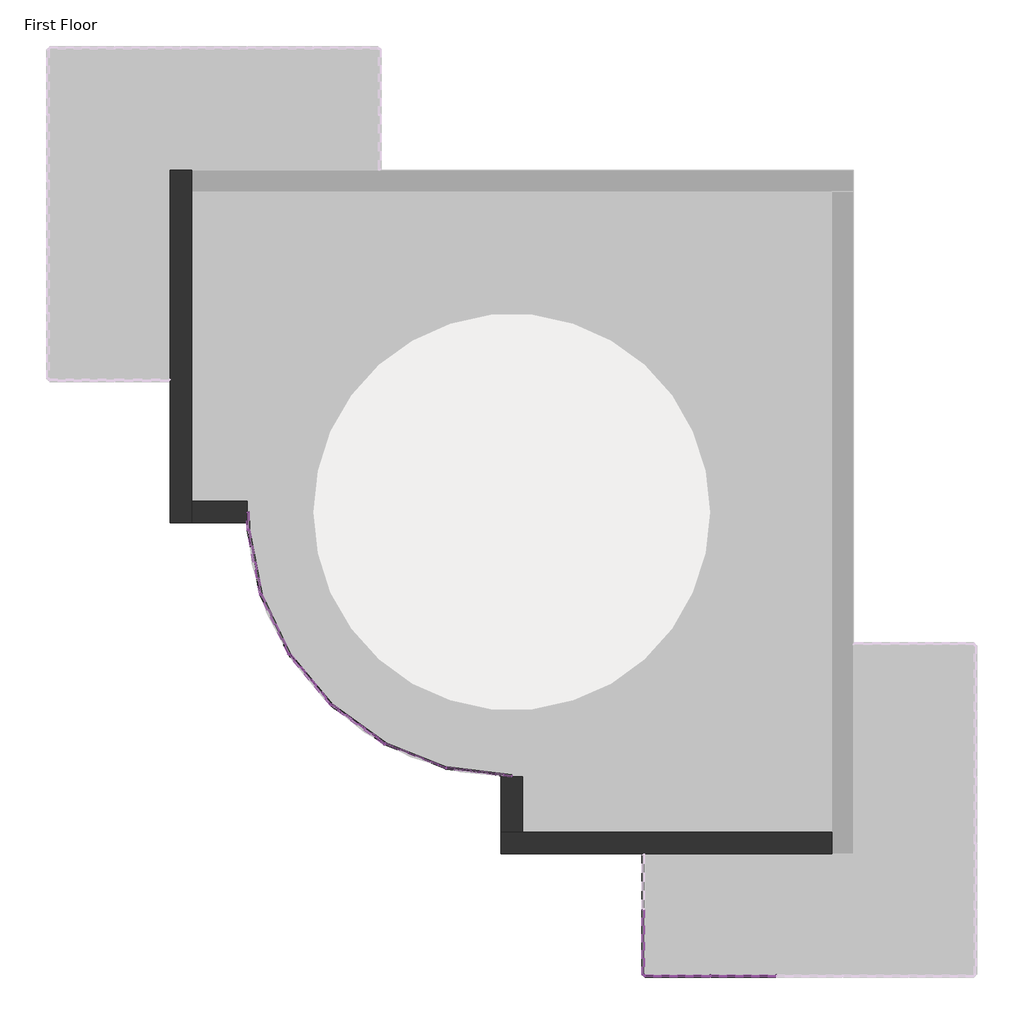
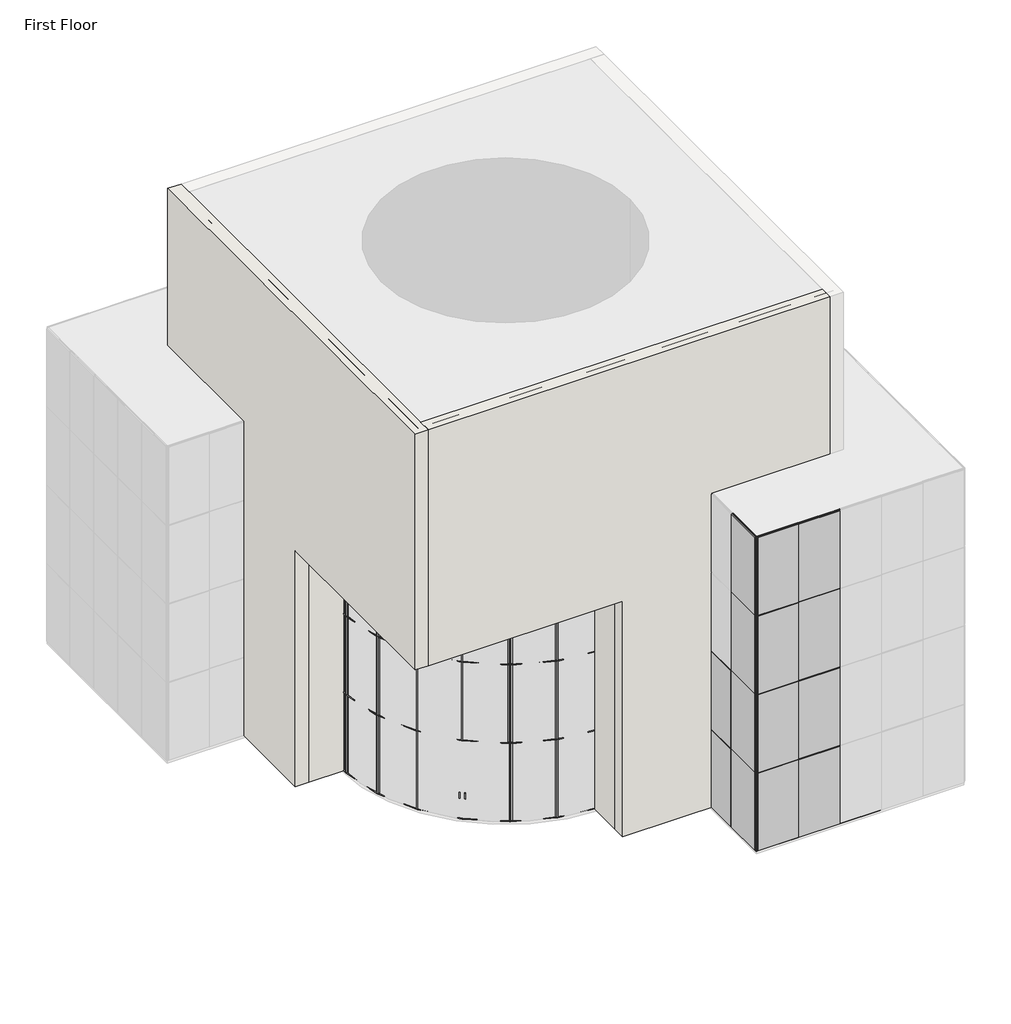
# One storey, part 1 of 4: 73 members, 35 plates, 4 walls.
"""IFC4 building model written with IfcOpenShell, lengths in millimetres."""

from ifc_helpers import new_model, si_unit, origin, origin_with_axes, place, context, project, spatial, polyline, outline, extrude, faceted_brep, transform, mapped, element, save
from components import member_5e617a80, member_74941792, member_cbdb9076, member_7e523723, member_9fd3d903, member_6604d1e0, member_427ea564, member_dc7d8ed0, member_50c0a876, member_f831c101, member_4ce38149, member_fef64646, member_b90b2622, member_80103e86, member_985bfe06, member_dfe62b7a, member_7f371842, curtain_wall_sgl_glass_curtain_wall_sgl_glass_fca7f741, curtain_wall_sgl_glass_curtain_wall_sgl_glass_da5bb70a, system_panel_glazed_9b7d687a, system_panel_glazed_9a901b4a, system_panel_glazed_2d5e1d3d, system_panel_glazed_37964ea6, system_panel_glazed_a669fc9f, system_panel_glazed_51c864c8, system_panel_glazed_64ac1428, system_panel_glazed_4997d7a8, system_panel_glazed_95735f45, system_panel_glazed_2762a518, system_panel_glazed_280dc3c4, system_panel_glazed_176abec3, system_panel_glazed_46fdc408

model = new_model("IFC4")

# Units and contexts
model_context = context("Model", 3, world=origin())
ifc_project = project(units=[si_unit("LENGTHUNIT", "METRE", prefix="MILLI")], contexts=[model_context])

# Site, building, storey
site = spatial("IfcSite", under=ifc_project)
building = spatial("IfcBuilding", under=site)
storey = spatial("IfcBuildingStorey", under=building, Name="First Floor", Elevation=0.0)

# Members
placement = place(None, origin())
member_shape = member_5e617a80(model_context)
element("IfcMember", 1, ObjectType="Rectangular Mullion : 1\" Square", at=placement, inside=storey, context=model_context, shape_type="MappedRepresentation", body=[
    mapped(member_shape, transform((2088.1943843, -11353.9860776, 3048.0), x_axis=(0.0, 0.0, 1.0), y_axis=(0.0, -1.0, 0.0), z_axis=(1.0, 0.0, 0.0))),
])
element("IfcMember", 2, ObjectType="Rectangular Mullion : 1\" Square", at=placement, inside=storey, context=model_context, shape_type="MappedRepresentation", body=[
    mapped(member_shape, transform((2088.1943843, -11353.9860776, 6096.0), x_axis=(0.0, 0.0, 1.0), y_axis=(0.0, -1.0, 0.0), z_axis=(1.0, 0.0, 0.0))),
])
element("IfcMember", 3, ObjectType="Rectangular Mullion : 1\" Square", at=placement, inside=storey, context=model_context, shape_type="MappedRepresentation", body=[
    mapped(member_shape, transform((2088.1943843, -11353.9860776, 9144.0), x_axis=(0.0, 0.0, 1.0), y_axis=(0.0, -1.0, 0.0), z_axis=(1.0, 0.0, 0.0))),
])
member_2_shape = member_74941792(model_context)
element("IfcMember", 4, ObjectType="Rectangular Mullion : 1\" Square", at=placement, inside=storey, context=model_context, shape_type="MappedRepresentation", body=[
    mapped(member_2_shape, transform((2088.1943843, -11353.9860776, 12192.0), x_axis=(0.0, 0.0, 1.0), y_axis=(0.0, -1.0, 0.0), z_axis=(1.0, 0.0, 0.0))),
])
member_3_shape = member_cbdb9076(model_context)
element("IfcMember", 5, ObjectType="Rectangular Mullion : 1\" Square", at=placement, inside=storey, context=model_context, shape_type="MappedRepresentation", body=[
    mapped(member_3_shape, transform((576.8943843, -11350.8110776, 3048.0), x_axis=(0.0, -1.0, 0.0), y_axis=(-1.0, 0.0, 0.0), z_axis=(0.0, 0.0, -1.0))),
])
element("IfcMember", 6, ObjectType="Rectangular Mullion : 1\" Square", at=placement, inside=storey, context=model_context, shape_type="MappedRepresentation", body=[
    mapped(member_3_shape, transform((576.8943843, -11350.8110776, 6096.0), x_axis=(0.0, -1.0, 0.0), y_axis=(-1.0, 0.0, 0.0), z_axis=(0.0, 0.0, -1.0))),
])
element("IfcMember", 7, ObjectType="Rectangular Mullion : 1\" Square", at=placement, inside=storey, context=model_context, shape_type="MappedRepresentation", body=[
    mapped(member_3_shape, transform((2100.8943843, -11353.9860776, 3048.0), x_axis=(1.0, 0.0, 0.0), y_axis=(0.0, -1.0, 0.0), z_axis=(0.0, 0.0, -1.0))),
])
element("IfcMember", 8, ObjectType="Rectangular Mullion : 1\" Square", at=placement, inside=storey, context=model_context, shape_type="MappedRepresentation", body=[
    mapped(member_3_shape, transform((2100.8943843, -11353.9860776, 6096.0), x_axis=(1.0, 0.0, 0.0), y_axis=(0.0, -1.0, 0.0), z_axis=(0.0, 0.0, -1.0))),
])
element("IfcMember", 9, ObjectType="Rectangular Mullion : 1\" Square", at=placement, inside=storey, context=model_context, shape_type="MappedRepresentation", body=[
    mapped(member_3_shape, transform((3624.8943843, -11353.9860776, 3048.0), x_axis=(1.0, 0.0, 0.0), y_axis=(0.0, -1.0, 0.0), z_axis=(0.0, 0.0, -1.0))),
])
element("IfcMember", 10, ObjectType="Rectangular Mullion : 1\" Square", at=placement, inside=storey, context=model_context, shape_type="MappedRepresentation", body=[
    mapped(member_3_shape, transform((3624.8943843, -11353.9860776, 6096.0), x_axis=(1.0, 0.0, 0.0), y_axis=(0.0, -1.0, 0.0), z_axis=(0.0, 0.0, -1.0))),
])
element("IfcMember", 11, ObjectType="Rectangular Mullion : 1\" Square", at=placement, inside=storey, context=model_context, shape_type="MappedRepresentation", body=[
    mapped(member_3_shape, transform((-8553.4843812, -1093.2753523, 3048.0), x_axis=(-0.06681254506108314, 0.9977655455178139, 0.0), y_axis=(0.9977655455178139, 0.06681254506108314, 0.0), z_axis=(0.0, 0.0, -1.0))),
])
element("IfcMember", 12, ObjectType="Rectangular Mullion : 1\" Square", at=placement, inside=storey, context=model_context, shape_type="MappedRepresentation", body=[
    mapped(member_3_shape, transform((-8262.3863448, -2589.2158368, 3048.0), x_axis=(-0.3122096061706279, 0.9500132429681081, 0.0), y_axis=(0.9500132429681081, 0.3122096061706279, 0.0), z_axis=(0.0, 0.0, -1.0))),
])
element("IfcMember", 13, ObjectType="Rectangular Mullion : 1\" Square", at=placement, inside=storey, context=model_context, shape_type="MappedRepresentation", body=[
    mapped(member_3_shape, transform((-7609.3332629, -3966.2044614, 3048.0), x_axis=(-0.5380935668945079, 0.8428851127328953, 0.0), y_axis=(0.8428851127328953, 0.5380935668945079, 0.0), z_axis=(0.0, 0.0, -1.0))),
])
element("IfcMember", 14, ObjectType="Rectangular Mullion : 1\" Square", at=placement, inside=storey, context=model_context, shape_type="MappedRepresentation", body=[
    mapped(member_3_shape, transform((-5400.6964346, -6031.8923276, 3048.0), x_axis=(-0.876953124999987, 0.4805759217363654, 0.0), y_axis=(0.4805759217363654, 0.876953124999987, 0.0), z_axis=(0.0, 0.0, -1.0))),
])
element("IfcMember", 15, ObjectType="Rectangular Mullion : 1\" Square", at=placement, inside=storey, context=model_context, shape_type="MappedRepresentation", body=[
    mapped(member_3_shape, transform((-3983.15249, -6591.4860776, 3048.0), x_axis=(-0.9687499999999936, 0.2480391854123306, 0.0), y_axis=(0.2480391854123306, 0.9687499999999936, 0.0), z_axis=(0.0, 0.0, -1.0))),
])
element("IfcMember", 16, ObjectType="Rectangular Mullion : 1\" Square", at=placement, inside=storey, context=model_context, shape_type="MappedRepresentation", body=[
    mapped(member_3_shape, transform((576.8943843, -11350.8110776, 9144.0), x_axis=(0.0, -1.0, 0.0), y_axis=(-1.0, 0.0, 0.0), z_axis=(0.0, 0.0, -1.0))),
])
element("IfcMember", 17, ObjectType="Rectangular Mullion : 1\" Square", at=placement, inside=storey, context=model_context, shape_type="MappedRepresentation", body=[
    mapped(member_3_shape, transform((2100.8943843, -11353.9860776, 9144.0), x_axis=(1.0, 0.0, 0.0), y_axis=(0.0, -1.0, 0.0), z_axis=(0.0, 0.0, -1.0))),
])
element("IfcMember", 18, ObjectType="Rectangular Mullion : 1\" Square", at=placement, inside=storey, context=model_context, shape_type="MappedRepresentation", body=[
    mapped(member_3_shape, transform((3624.8943843, -11353.9860776, 9144.0), x_axis=(1.0, 0.0, 0.0), y_axis=(0.0, -1.0, 0.0), z_axis=(0.0, 0.0, -1.0))),
])
element("IfcMember", 19, ObjectType="Rectangular Mullion : 1\" Square", at=placement, inside=storey, context=model_context, shape_type="MappedRepresentation", body=[
    mapped(member_3_shape, transform((576.8943843, -11350.8110776, 0.0), x_axis=(0.0, -1.0, 0.0), y_axis=(-1.0, 0.0, 0.0), z_axis=(0.0, 0.0, -1.0))),
])
element("IfcMember", 20, ObjectType="Rectangular Mullion : 1\" Square", at=placement, inside=storey, context=model_context, shape_type="MappedRepresentation", body=[
    mapped(member_3_shape, transform((2100.8943843, -11353.9860776, 0.0), x_axis=(1.0, 0.0, 0.0), y_axis=(0.0, -1.0, 0.0), z_axis=(0.0, 0.0, -1.0))),
])
element("IfcMember", 21, ObjectType="Rectangular Mullion : 1\" Square", at=placement, inside=storey, context=model_context, shape_type="MappedRepresentation", body=[
    mapped(member_3_shape, transform((3624.8943843, -11353.9860776, 0.0), x_axis=(1.0, 0.0, 0.0), y_axis=(0.0, -1.0, 0.0), z_axis=(0.0, 0.0, -1.0))),
])
element("IfcMember", 22, ObjectType="Rectangular Mullion : 1\" Square", at=placement, inside=storey, context=model_context, shape_type="MappedRepresentation", body=[
    mapped(member_3_shape, transform((-8553.4843812, -1093.2753523, 0.0), x_axis=(-0.06681254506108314, 0.9977655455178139, 0.0), y_axis=(0.9977655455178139, 0.06681254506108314, 0.0), z_axis=(0.0, 0.0, -1.0))),
])
element("IfcMember", 23, ObjectType="Rectangular Mullion : 1\" Square", at=placement, inside=storey, context=model_context, shape_type="MappedRepresentation", body=[
    mapped(member_3_shape, transform((-8262.3863448, -2589.2158368, 0.0), x_axis=(-0.3122096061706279, 0.9500132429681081, 0.0), y_axis=(0.9500132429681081, 0.3122096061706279, 0.0), z_axis=(0.0, 0.0, -1.0))),
])
element("IfcMember", 24, ObjectType="Rectangular Mullion : 1\" Square", at=placement, inside=storey, context=model_context, shape_type="MappedRepresentation", body=[
    mapped(member_3_shape, transform((-7609.3332629, -3966.2044614, 0.0), x_axis=(-0.5380935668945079, 0.8428851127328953, 0.0), y_axis=(0.8428851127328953, 0.5380935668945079, 0.0), z_axis=(0.0, 0.0, -1.0))),
])
element("IfcMember", 25, ObjectType="Rectangular Mullion : 1\" Square", at=placement, inside=storey, context=model_context, shape_type="MappedRepresentation", body=[
    mapped(member_3_shape, transform((-5400.6964346, -6031.8923276, 0.0), x_axis=(-0.876953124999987, 0.4805759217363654, 0.0), y_axis=(0.4805759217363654, 0.876953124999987, 0.0), z_axis=(0.0, 0.0, -1.0))),
])
element("IfcMember", 26, ObjectType="Rectangular Mullion : 1\" Square", at=placement, inside=storey, context=model_context, shape_type="MappedRepresentation", body=[
    mapped(member_3_shape, transform((-3983.15249, -6591.4860776, 0.0), x_axis=(-0.9687499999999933, 0.24803918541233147, 0.0), y_axis=(0.24803918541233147, 0.9687499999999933, 0.0), z_axis=(0.0, 0.0, -1.0))),
])
element("IfcMember", 27, ObjectType="Rectangular Mullion : 1\" Square", at=placement, inside=storey, context=model_context, shape_type="MappedRepresentation", body=[
    mapped(member_2_shape, transform((602.2943843, -11353.9860776, 0.0), x_axis=(0.0, 0.0, -1.0), y_axis=(0.0, -1.0, 0.0), z_axis=(-1.0, 0.0, 0.0))),
])
member_4_shape = member_7e523723(model_context)
element("IfcMember", 28, ObjectType="Rectangular Mullion : 1\" Square", at=placement, inside=storey, context=model_context, shape_type="MappedRepresentation", body=[
    mapped(member_4_shape, transform((576.8943843, -11353.9860776, 12192.0), x_axis=(-1.0, 0.0, 0.0), y_axis=(0.0, -1.0, 0.0), z_axis=(0.0, 0.0, 1.0))),
])
element("IfcMember", 29, ObjectType="Rectangular Mullion : 1\" Square", at=placement, inside=storey, context=model_context, shape_type="MappedRepresentation", body=[
    mapped(member_4_shape, transform((576.8943843, -11353.9860776, 3048.0), x_axis=(-1.0, 0.0, 0.0), y_axis=(0.0, -1.0, 0.0), z_axis=(0.0, 0.0, 1.0))),
])
element("IfcMember", 30, ObjectType="Rectangular Mullion : 1\" Square", at=placement, inside=storey, context=model_context, shape_type="MappedRepresentation", body=[
    mapped(member_4_shape, transform((576.8943843, -11353.9860776, 6096.0), x_axis=(-1.0, 0.0, 0.0), y_axis=(0.0, -1.0, 0.0), z_axis=(0.0, 0.0, 1.0))),
])
element("IfcMember", 31, ObjectType="Rectangular Mullion : 1\" Square", at=placement, inside=storey, context=model_context, shape_type="MappedRepresentation", body=[
    mapped(member_4_shape, transform((576.8943843, -11353.9860776, 9144.0), x_axis=(-1.0, 0.0, 0.0), y_axis=(0.0, -1.0, 0.0), z_axis=(0.0, 0.0, 1.0))),
])
member_5_shape = member_9fd3d903(model_context)
element("IfcMember", 32, ObjectType="Rectangular Mullion : 1\" Square", at=placement, inside=storey, context=model_context, shape_type="MappedRepresentation", body=[
    mapped(member_5_shape, transform((576.8943843, -11338.1110776, 3048.0), x_axis=(0.0, 0.0, 1.0), y_axis=(-1.0, 0.0, 0.0), z_axis=(0.0, -1.0, 0.0))),
])
element("IfcMember", 33, ObjectType="Rectangular Mullion : 1\" Square", at=placement, inside=storey, context=model_context, shape_type="MappedRepresentation", body=[
    mapped(member_5_shape, transform((576.8943843, -11338.1110776, 6096.0), x_axis=(0.0, 0.0, 1.0), y_axis=(-1.0, 0.0, 0.0), z_axis=(0.0, -1.0, 0.0))),
])
element("IfcMember", 34, ObjectType="Rectangular Mullion : 1\" Square", at=placement, inside=storey, context=model_context, shape_type="MappedRepresentation", body=[
    mapped(member_5_shape, transform((576.8943843, -11338.1110776, 9144.0), x_axis=(0.0, 0.0, 1.0), y_axis=(-1.0, 0.0, 0.0), z_axis=(0.0, -1.0, 0.0))),
])
element("IfcMember", 35, ObjectType="Rectangular Mullion : 1\" Square", at=placement, inside=storey, context=model_context, shape_type="MappedRepresentation", body=[
    mapped(member_5_shape, transform((3612.1943843, -11353.9860776, 3048.0), x_axis=(0.0, 0.0, 1.0), y_axis=(0.0, -1.0, 0.0), z_axis=(1.0, 0.0, 0.0))),
])
element("IfcMember", 36, ObjectType="Rectangular Mullion : 1\" Square", at=placement, inside=storey, context=model_context, shape_type="MappedRepresentation", body=[
    mapped(member_5_shape, transform((3612.1943843, -11353.9860776, 6096.0), x_axis=(0.0, 0.0, 1.0), y_axis=(0.0, -1.0, 0.0), z_axis=(1.0, 0.0, 0.0))),
])
element("IfcMember", 37, ObjectType="Rectangular Mullion : 1\" Square", at=placement, inside=storey, context=model_context, shape_type="MappedRepresentation", body=[
    mapped(member_5_shape, transform((3612.1943843, -11353.9860776, 9144.0), x_axis=(0.0, 0.0, 1.0), y_axis=(0.0, -1.0, 0.0), z_axis=(1.0, 0.0, 0.0))),
])
member_6_shape = member_6604d1e0(model_context)
element("IfcMember", 38, ObjectType="Rectangular Mullion : 1\" Square", at=placement, inside=storey, context=model_context, shape_type="MappedRepresentation", body=[
    mapped(member_6_shape, transform((576.8943843, -11338.1110776, 12192.0), x_axis=(0.0, 0.0, 1.0), y_axis=(-1.0, 0.0, 0.0), z_axis=(0.0, -1.0, 0.0))),
])
element("IfcMember", 39, ObjectType="Rectangular Mullion : 1\" Square", at=placement, inside=storey, context=model_context, shape_type="MappedRepresentation", body=[
    mapped(member_6_shape, transform((3612.1943843, -11353.9860776, 12192.0), x_axis=(0.0, 0.0, 1.0), y_axis=(0.0, -1.0, 0.0), z_axis=(1.0, 0.0, 0.0))),
])
element("IfcMember", 40, ObjectType="Rectangular Mullion : 1\" Square", at=placement, inside=storey, context=model_context, shape_type="MappedRepresentation", body=[
    mapped(member_6_shape, transform((2113.5943843, -11353.9860776, 0.0), x_axis=(0.0, 0.0, -1.0), y_axis=(0.0, -1.0, 0.0), z_axis=(-1.0, 0.0, 0.0))),
])
element("IfcMember", 41, ObjectType="Rectangular Mullion : 1\" Square", at=placement, inside=storey, context=model_context, shape_type="MappedRepresentation", body=[
    mapped(member_6_shape, transform((3637.5943843, -11353.9860776, 0.0), x_axis=(0.0, 0.0, -1.0), y_axis=(0.0, -1.0, 0.0), z_axis=(-1.0, 0.0, 0.0))),
])
element("IfcMember", 42, ObjectType="Rectangular Mullion : 1\" Square", at=placement, inside=storey, context=model_context, shape_type="MappedRepresentation", body=[
    mapped(member_4_shape, transform((576.8943843, -11353.9860776, 3048.0), x_axis=(0.0, -1.0, 0.0), y_axis=(-1.0, 0.0, 0.0), z_axis=(0.0, 0.0, -1.0))),
])
element("IfcMember", 43, ObjectType="Rectangular Mullion : 1\" Square", at=placement, inside=storey, context=model_context, shape_type="MappedRepresentation", body=[
    mapped(member_4_shape, transform((576.8943843, -11353.9860776, 6096.0), x_axis=(0.0, -1.0, 0.0), y_axis=(-1.0, 0.0, 0.0), z_axis=(0.0, 0.0, -1.0))),
])
element("IfcMember", 44, ObjectType="Rectangular Mullion : 1\" Square", at=placement, inside=storey, context=model_context, shape_type="MappedRepresentation", body=[
    mapped(member_4_shape, transform((576.8943843, -11353.9860776, 9144.0), x_axis=(0.0, -1.0, 0.0), y_axis=(-1.0, 0.0, 0.0), z_axis=(0.0, 0.0, -1.0))),
])
element("IfcMember", 45, ObjectType="Rectangular Mullion : 1\" Square", at=placement, inside=storey, context=model_context, shape_type="MappedRepresentation", body=[
    mapped(member_4_shape, transform((576.8943843, -11353.9860776, 0.0), x_axis=(0.0, -1.0, 0.0), y_axis=(-1.0, 0.0, 0.0), z_axis=(0.0, 0.0, -1.0))),
])
member_7_shape = member_427ea564(model_context)
element("IfcMember", 46, ObjectType="Rectangular Mullion : 1\" Square", at=placement, inside=storey, context=model_context, shape_type="MappedRepresentation", body=[
    mapped(member_7_shape, transform((-7614.7753719, -3954.7295562, 0.0), x_axis=(0.0, 0.0, -1.0), y_axis=(0.903535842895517, 0.42851252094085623, 0.0), z_axis=(0.42851252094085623, -0.903535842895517, 0.0))),
])
element("IfcMember", 47, ObjectType="Rectangular Mullion : 1\" Square", at=placement, inside=storey, context=model_context, shape_type="MappedRepresentation", body=[
    mapped(member_7_shape, transform((-3994.9653562, -6586.8227963, 0.0), x_axis=(0.0, 0.0, -1.0), y_axis=(0.36718750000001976, 0.9301469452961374, 0.0), z_axis=(0.9301469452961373, -0.3671875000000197, 0.0))),
])
element("IfcMember", 48, ObjectType="Rectangular Mullion : 1\" Square", at=placement, inside=storey, context=model_context, shape_type="MappedRepresentation", body=[
    mapped(member_7_shape, transform((-8264.8121618, -2576.7496661, 0.0), x_axis=(0.0, 0.0, -1.0), y_axis=(0.9815882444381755, 0.1910092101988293, 0.0), z_axis=(0.1910092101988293, -0.9815882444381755, 0.0))),
])
member_8_shape = member_dc7d8ed0(model_context)
element("IfcMember", 49, ObjectType="Rectangular Mullion : 1\" Square", at=placement, inside=storey, context=model_context, shape_type="MappedRepresentation", body=[
    mapped(member_8_shape, transform((-6635.1409531, -5138.1794369, 0.0), x_axis=(0.0, 0.0, -1.0), y_axis=(0.7690124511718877, 0.6392337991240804, 0.0), z_axis=(0.6392337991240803, -0.7690124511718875, 0.0))),
])
member_9_shape = member_50c0a876(model_context)
element("IfcMember", 50, ObjectType="Rectangular Mullion : 1\" Square", at=placement, inside=storey, context=model_context, shape_type="MappedRepresentation", body=[
    mapped(member_9_shape, transform((-5410.9834723, -6024.4447202, 0.0), x_axis=(0.0, 0.0, -1.0), y_axis=(0.5864257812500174, 0.8100029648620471, 0.0), z_axis=(0.8100029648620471, -0.5864257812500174, 0.0))),
])
member_10_shape = member_f831c101(model_context)
element("IfcMember", 51, ObjectType="Rectangular Mullion : 1\" Square", at=placement, inside=storey, context=model_context, shape_type="MappedRepresentation", body=[
    mapped(member_10_shape, transform((-2471.1056157, -6781.9860776, 0.0), x_axis=(0.0, 0.0, -1.0), y_axis=(0.12500000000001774, 0.9921567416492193, 0.0), z_axis=(0.9921567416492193, -0.12500000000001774, 0.0))),
])
member_11_shape = member_4ce38149(model_context)
element("IfcMember", 52, ObjectType="Rectangular Mullion : 1\" Square", at=placement, inside=storey, context=model_context, shape_type="MappedRepresentation", body=[
    mapped(member_11_shape, transform((-8553.908878, -1080.5824486, 0.0), x_axis=(0.0, 0.0, -1.0), y_axis=(0.9994412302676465, 0.03342494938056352, 0.0), z_axis=(0.033424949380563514, -0.9994412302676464, 0.0))),
])
member_12_shape = member_fef64646(model_context)
element("IfcMember", 53, ObjectType="Rectangular Mullion : 1\" Square", at=placement, inside=storey, context=model_context, shape_type="MappedRepresentation", body=[
    mapped(member_12_shape, transform((-3970.5520994, -6593.0735776, 3048.0), x_axis=(0.0, 0.0, 1.0), y_axis=(0.12500000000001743, 0.9921567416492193, 0.0), z_axis=(-0.9921567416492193, 0.12500000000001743, 0.0))),
])
element("IfcMember", 54, ObjectType="Rectangular Mullion : 1\" Square", at=placement, inside=storey, context=model_context, shape_type="MappedRepresentation", body=[
    mapped(member_12_shape, transform((-3970.5520994, -6593.0735776, 6096.0), x_axis=(0.0, 0.0, 1.0), y_axis=(0.12500000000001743, 0.9921567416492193, 0.0), z_axis=(-0.9921567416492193, 0.12500000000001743, 0.0))),
])
member_13_shape = member_b90b2622(model_context)
element("IfcMember", 55, ObjectType="Rectangular Mullion : 1\" Square", at=placement, inside=storey, context=model_context, shape_type="MappedRepresentation", body=[
    mapped(member_13_shape, transform((-5388.8835684, -6036.5556088, 3048.0), x_axis=(0.0, 0.0, 1.0), y_axis=(0.36718750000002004, 0.9301469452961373, 0.0), z_axis=(-0.9301469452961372, 0.36718750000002, 0.0))),
])
element("IfcMember", 56, ObjectType="Rectangular Mullion : 1\" Square", at=placement, inside=storey, context=model_context, shape_type="MappedRepresentation", body=[
    mapped(member_13_shape, transform((-8256.9442358, -2600.690742, 3048.0), x_axis=(0.0, 0.0, 1.0), y_axis=(0.9035358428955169, 0.42851252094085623, 0.0), z_axis=(-0.42851252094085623, 0.9035358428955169, 0.0))),
])
element("IfcMember", 57, ObjectType="Rectangular Mullion : 1\" Square", at=placement, inside=storey, context=model_context, shape_type="MappedRepresentation", body=[
    mapped(member_13_shape, transform((-8551.0585642, -1105.741523, 3048.0), x_axis=(0.0, 0.0, 1.0), y_axis=(0.9815882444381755, 0.1910092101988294, 0.0), z_axis=(-0.19100921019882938, 0.9815882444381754, 0.0))),
])
element("IfcMember", 58, ObjectType="Rectangular Mullion : 1\" Square", at=placement, inside=storey, context=model_context, shape_type="MappedRepresentation", body=[
    mapped(member_13_shape, transform((-8256.9442358, -2600.690742, 6096.0), x_axis=(0.0, 0.0, 1.0), y_axis=(0.9035358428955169, 0.42851252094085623, 0.0), z_axis=(-0.42851252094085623, 0.9035358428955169, 0.0))),
])
element("IfcMember", 59, ObjectType="Rectangular Mullion : 1\" Square", at=placement, inside=storey, context=model_context, shape_type="MappedRepresentation", body=[
    mapped(member_13_shape, transform((-8551.0585642, -1105.741523, 6096.0), x_axis=(0.0, 0.0, 1.0), y_axis=(0.9815882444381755, 0.19100921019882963, 0.0), z_axis=(-0.1910092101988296, 0.9815882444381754, 0.0))),
])
element("IfcMember", 60, ObjectType="Rectangular Mullion : 1\" Square", at=placement, inside=storey, context=model_context, shape_type="MappedRepresentation", body=[
    mapped(member_13_shape, transform((-5388.8835684, -6036.5556088, 6096.0), x_axis=(0.0, 0.0, 1.0), y_axis=(0.36718750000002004, 0.9301469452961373, 0.0), z_axis=(-0.9301469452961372, 0.36718750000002, 0.0))),
])
member_14_shape = member_80103e86(model_context)
element("IfcMember", 61, ObjectType="Rectangular Mullion : 1\" Square", at=placement, inside=storey, context=model_context, shape_type="MappedRepresentation", body=[
    mapped(member_14_shape, transform((-8567.1056157, -685.9860776, 3048.0), x_axis=(0.0, 0.0, 1.0), y_axis=(0.9994412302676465, 0.03342494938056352, 0.0), z_axis=(-0.033424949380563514, 0.9994412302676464, 0.0))),
])
element("IfcMember", 62, ObjectType="Rectangular Mullion : 1\" Square", at=placement, inside=storey, context=model_context, shape_type="MappedRepresentation", body=[
    mapped(member_14_shape, transform((-8567.1056157, -685.9860776, 6096.0), x_axis=(0.0, 0.0, 1.0), y_axis=(0.9994412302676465, 0.0334249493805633, 0.0), z_axis=(-0.03342494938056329, 0.9994412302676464, 0.0))),
])
element("IfcMember", 63, ObjectType="Rectangular Mullion : 1\" Square", at=placement, inside=storey, context=model_context, shape_type="MappedRepresentation", body=[
    mapped(member_3_shape, transform((-8553.4843812, -1093.2753523, 6096.0), x_axis=(-0.0668125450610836, 0.9977655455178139, 0.0), y_axis=(0.9977655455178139, 0.0668125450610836, 0.0), z_axis=(0.0, 0.0, -1.0))),
])
element("IfcMember", 64, ObjectType="Rectangular Mullion : 1\" Square", at=placement, inside=storey, context=model_context, shape_type="MappedRepresentation", body=[
    mapped(member_3_shape, transform((-8262.3863448, -2589.2158368, 6096.0), x_axis=(-0.3122096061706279, 0.9500132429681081, 0.0), y_axis=(0.9500132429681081, 0.3122096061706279, 0.0), z_axis=(0.0, 0.0, -1.0))),
])
element("IfcMember", 65, ObjectType="Rectangular Mullion : 1\" Square", at=placement, inside=storey, context=model_context, shape_type="MappedRepresentation", body=[
    mapped(member_3_shape, transform((-7609.3332629, -3966.2044614, 6096.0), x_axis=(-0.5380935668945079, 0.8428851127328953, 0.0), y_axis=(0.8428851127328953, 0.5380935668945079, 0.0), z_axis=(0.0, 0.0, -1.0))),
])
element("IfcMember", 66, ObjectType="Rectangular Mullion : 1\" Square", at=placement, inside=storey, context=model_context, shape_type="MappedRepresentation", body=[
    mapped(member_3_shape, transform((-5400.6964346, -6031.8923276, 6096.0), x_axis=(-0.8769531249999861, 0.48057592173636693, 0.0), y_axis=(0.48057592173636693, 0.8769531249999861, 0.0), z_axis=(0.0, 0.0, -1.0))),
])
element("IfcMember", 67, ObjectType="Rectangular Mullion : 1\" Square", at=placement, inside=storey, context=model_context, shape_type="MappedRepresentation", body=[
    mapped(member_3_shape, transform((-3983.15249, -6591.4860776, 6096.0), x_axis=(-0.9687499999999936, 0.2480391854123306, 0.0), y_axis=(0.2480391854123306, 0.9687499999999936, 0.0), z_axis=(0.0, 0.0, -1.0))),
])
element("IfcMember", 68, ObjectType="Rectangular Mullion : 1\" Square", at=placement, inside=storey, context=model_context, shape_type="MappedRepresentation", body=[
    mapped(member_3_shape, transform((-6635.1409531, -5138.1794369, 6096.0), x_axis=(-0.7303466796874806, 0.6830766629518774, 0.0), y_axis=(0.6830766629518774, 0.7303466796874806, 0.0), z_axis=(0.0, 0.0, -1.0))),
])
element("IfcMember", 69, ObjectType="Rectangular Mullion : 1\" Square", at=placement, inside=storey, context=model_context, shape_type="MappedRepresentation", body=[
    mapped(member_13_shape, transform((-6624.8539154, -5145.6270444, 6096.0), x_axis=(0.0, 0.0, 1.0), y_axis=(0.5864257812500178, 0.8100029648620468, 0.0), z_axis=(-0.8100029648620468, 0.5864257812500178, 0.0))),
])
element("IfcMember", 70, ObjectType="Rectangular Mullion : 1\" Square", at=placement, inside=storey, context=model_context, shape_type="MappedRepresentation", body=[
    mapped(member_13_shape, transform((-7601.2149937, -3975.9709195, 6096.0), x_axis=(0.0, 0.0, 1.0), y_axis=(0.7690124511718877, 0.6392337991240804, 0.0), z_axis=(-0.6392337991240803, 0.7690124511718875, 0.0))),
])
member_15_shape = member_985bfe06(model_context)
element("IfcMember", 71, ObjectType="Rectangular Mullion : 1\" Square", at=placement, inside=storey, context=model_context, shape_type="MappedRepresentation", body=[
    mapped(member_15_shape, transform((-6635.1409531, -5138.1794369, 3035.3), x_axis=(-0.7303466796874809, 0.6830766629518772, 0.0), y_axis=(0.6830766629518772, 0.7303466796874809, 0.0), z_axis=(0.0, 0.0, -1.0))),
])
member_16_shape = member_dfe62b7a(model_context)
element("IfcMember", 72, ObjectType="Rectangular Mullion : 1\" Square", at=placement, inside=storey, context=model_context, shape_type="MappedRepresentation", body=[
    mapped(member_16_shape, transform((-6624.8539154, -5145.6270444, 3048.0), x_axis=(0.0, 0.0, 1.0), y_axis=(0.586425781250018, 0.8100029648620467, 0.0), z_axis=(-0.8100029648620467, 0.586425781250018, 0.0))),
])
member_17_shape = member_7f371842(model_context)
element("IfcMember", 73, ObjectType="Rectangular Mullion : 1\" Square", at=placement, inside=storey, context=model_context, shape_type="MappedRepresentation", body=[
    mapped(member_17_shape, transform((-7601.2149937, -3975.9709195, 3048.0), x_axis=(0.0, 0.0, 1.0), y_axis=(0.7690124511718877, 0.6392337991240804, 0.0), z_axis=(-0.6392337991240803, 0.7690124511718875, 0.0))),
])

# Plates
curtain_wall_sgl_glass_curtain_wall_sgl_glass_shape = curtain_wall_sgl_glass_curtain_wall_sgl_glass_fca7f741(model_context)
element("IfcPlate", 74, ObjectType="Curtain Wall Sgl Glass : Curtain Wall Sgl Glass", at=placement, inside=storey, context=model_context, shape_type="MappedRepresentation", body=[
    mapped(curtain_wall_sgl_glass_curtain_wall_sgl_glass_shape, transform((-6023.0622127, -5581.3120786, 25.4), x_axis=(0.8100029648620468, -0.5864257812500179, 0.0), y_axis=(0.5864257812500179, 0.8100029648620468, 0.0), z_axis=(0.0, 0.0, 1.0))),
])
curtain_wall_sgl_glass_curtain_wall_sgl_glass_2_shape = curtain_wall_sgl_glass_curtain_wall_sgl_glass_da5bb70a(model_context)
element("IfcPlate", 75, ObjectType="Curtain Wall Sgl Glass : Curtain Wall Sgl Glass", at=placement, inside=storey, context=model_context, shape_type="MappedRepresentation", body=[
    mapped(curtain_wall_sgl_glass_curtain_wall_sgl_glass_2_shape, transform((-7118.1779734, -4557.0751782, 25.4), x_axis=(-0.6392337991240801, 0.7690124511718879, 0.0), y_axis=(-0.7690124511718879, -0.6392337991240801, 0.0), z_axis=(0.0, 0.0, 1.0))),
])
system_panel_glazed_shape = system_panel_glazed_9b7d687a(model_context)
element("IfcPlate", 76, ObjectType="System Panel : Glazed", at=placement, inside=storey, context=model_context, shape_type="MappedRepresentation", body=[
    mapped(system_panel_glazed_shape, transform((1345.2443843, -11353.9860776, 25.4), x_axis=(1.0, 0.0, 0.0), y_axis=(0.0, 1.0, 0.0), z_axis=(0.0, 0.0, 1.0))),
])
element("IfcPlate", 77, ObjectType="System Panel : Glazed", at=placement, inside=storey, context=model_context, shape_type="MappedRepresentation", body=[
    mapped(system_panel_glazed_shape, transform((1345.2443843, -11353.9860776, 9156.7), x_axis=(1.0, 0.0, 0.0), y_axis=(0.0, 1.0, 0.0), z_axis=(0.0, 0.0, 1.0))),
])
system_panel_glazed_2_shape = system_panel_glazed_9a901b4a(model_context)
element("IfcPlate", 78, ObjectType="System Panel : Glazed", at=placement, inside=storey, context=model_context, shape_type="MappedRepresentation", body=[
    mapped(system_panel_glazed_2_shape, transform((1345.2443843, -11353.9860776, 3060.7), x_axis=(1.0, 0.0, 0.0), y_axis=(0.0, 1.0, 0.0), z_axis=(0.0, 0.0, 1.0))),
])
element("IfcPlate", 79, ObjectType="System Panel : Glazed", at=placement, inside=storey, context=model_context, shape_type="MappedRepresentation", body=[
    mapped(system_panel_glazed_2_shape, transform((1345.2443843, -11353.9860776, 6108.7), x_axis=(1.0, 0.0, 0.0), y_axis=(0.0, 1.0, 0.0), z_axis=(0.0, 0.0, 1.0))),
])
system_panel_glazed_3_shape = system_panel_glazed_2d5e1d3d(model_context)
element("IfcPlate", 80, ObjectType="System Panel : Glazed", at=placement, inside=storey, context=model_context, shape_type="MappedRepresentation", body=[
    mapped(system_panel_glazed_3_shape, transform((2862.8943843, -11353.9860776, 25.4), x_axis=(1.0, 0.0, 0.0), y_axis=(0.0, 1.0, 0.0), z_axis=(0.0, 0.0, 1.0))),
])
element("IfcPlate", 81, ObjectType="System Panel : Glazed", at=placement, inside=storey, context=model_context, shape_type="MappedRepresentation", body=[
    mapped(system_panel_glazed_3_shape, transform((2862.8943843, -11353.9860776, 9156.7), x_axis=(1.0, 0.0, 0.0), y_axis=(0.0, 1.0, 0.0), z_axis=(0.0, 0.0, 1.0))),
])
element("IfcPlate", 82, ObjectType="System Panel : Glazed", at=placement, inside=storey, context=model_context, shape_type="MappedRepresentation", body=[
    mapped(system_panel_glazed_3_shape, transform((576.8943843, -10588.8110776, 25.4), x_axis=(0.0, -1.0, 0.0), y_axis=(1.0, 0.0, 0.0), z_axis=(0.0, 0.0, 1.0))),
])
element("IfcPlate", 83, ObjectType="System Panel : Glazed", at=placement, inside=storey, context=model_context, shape_type="MappedRepresentation", body=[
    mapped(system_panel_glazed_3_shape, transform((576.8943843, -10588.8110776, 9156.7), x_axis=(0.0, -1.0, 0.0), y_axis=(1.0, 0.0, 0.0), z_axis=(0.0, 0.0, 1.0))),
])
element("IfcPlate", 84, ObjectType="System Panel : Glazed", at=placement, inside=storey, context=model_context, shape_type="MappedRepresentation", body=[
    mapped(system_panel_glazed_3_shape, transform((-4691.9244623, -6311.6892026, 25.4), x_axis=(-0.9301469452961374, 0.36718750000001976, 0.0), y_axis=(-0.36718750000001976, -0.9301469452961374, 0.0), z_axis=(0.0, 0.0, 1.0))),
])
element("IfcPlate", 85, ObjectType="System Panel : Glazed", at=placement, inside=storey, context=model_context, shape_type="MappedRepresentation", body=[
    mapped(system_panel_glazed_3_shape, transform((-7935.8598039, -3277.7101491, 25.4), x_axis=(-0.42851252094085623, 0.903535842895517, 0.0), y_axis=(-0.903535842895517, -0.42851252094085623, 0.0), z_axis=(0.0, 0.0, 1.0))),
])
element("IfcPlate", 86, ObjectType="System Panel : Glazed", at=placement, inside=storey, context=model_context, shape_type="MappedRepresentation", body=[
    mapped(system_panel_glazed_3_shape, transform((-8407.935363, -1841.2455945, 25.4), x_axis=(-0.19100921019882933, 0.9815882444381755, 0.0), y_axis=(-0.9815882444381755, -0.19100921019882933, 0.0), z_axis=(0.0, 0.0, 1.0))),
])
system_panel_glazed_4_shape = system_panel_glazed_37964ea6(model_context)
element("IfcPlate", 87, ObjectType="System Panel : Glazed", at=placement, inside=storey, context=model_context, shape_type="MappedRepresentation", body=[
    mapped(system_panel_glazed_4_shape, transform((2862.8943843, -11353.9860776, 3060.7), x_axis=(1.0, 0.0, 0.0), y_axis=(0.0, 1.0, 0.0), z_axis=(0.0, 0.0, 1.0))),
])
element("IfcPlate", 88, ObjectType="System Panel : Glazed", at=placement, inside=storey, context=model_context, shape_type="MappedRepresentation", body=[
    mapped(system_panel_glazed_4_shape, transform((2862.8943843, -11353.9860776, 6108.7), x_axis=(1.0, 0.0, 0.0), y_axis=(0.0, 1.0, 0.0), z_axis=(0.0, 0.0, 1.0))),
])
element("IfcPlate", 89, ObjectType="System Panel : Glazed", at=placement, inside=storey, context=model_context, shape_type="MappedRepresentation", body=[
    mapped(system_panel_glazed_4_shape, transform((576.8943843, -10588.8110776, 3060.7), x_axis=(0.0, -1.0, 0.0), y_axis=(1.0, 0.0, 0.0), z_axis=(0.0, 0.0, 1.0))),
])
element("IfcPlate", 90, ObjectType="System Panel : Glazed", at=placement, inside=storey, context=model_context, shape_type="MappedRepresentation", body=[
    mapped(system_panel_glazed_4_shape, transform((576.8943843, -10588.8110776, 6108.7), x_axis=(0.0, -1.0, 0.0), y_axis=(1.0, 0.0, 0.0), z_axis=(0.0, 0.0, 1.0))),
])
element("IfcPlate", 91, ObjectType="System Panel : Glazed", at=placement, inside=storey, context=model_context, shape_type="MappedRepresentation", body=[
    mapped(system_panel_glazed_4_shape, transform((-4691.9244623, -6311.6892026, 3060.7), x_axis=(-0.9301469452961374, 0.36718750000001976, 0.0), y_axis=(-0.36718750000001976, -0.9301469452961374, 0.0), z_axis=(0.0, 0.0, 1.0))),
])
element("IfcPlate", 92, ObjectType="System Panel : Glazed", at=placement, inside=storey, context=model_context, shape_type="MappedRepresentation", body=[
    mapped(system_panel_glazed_4_shape, transform((-6017.9186938, -5585.0358823, 3060.7), x_axis=(-0.8100029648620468, 0.5864257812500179, 0.0), y_axis=(-0.5864257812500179, -0.8100029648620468, 0.0), z_axis=(0.0, 0.0, 1.0))),
])
element("IfcPlate", 93, ObjectType="System Panel : Glazed", at=placement, inside=storey, context=model_context, shape_type="MappedRepresentation", body=[
    mapped(system_panel_glazed_4_shape, transform((-7122.237108, -4552.1919492, 3060.7), x_axis=(-0.6392337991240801, 0.7690124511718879, 0.0), y_axis=(-0.7690124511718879, -0.6392337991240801, 0.0), z_axis=(0.0, 0.0, 1.0))),
])
element("IfcPlate", 94, ObjectType="System Panel : Glazed", at=placement, inside=storey, context=model_context, shape_type="MappedRepresentation", body=[
    mapped(system_panel_glazed_4_shape, transform((-7935.8598039, -3277.7101491, 3060.7), x_axis=(-0.42851252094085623, 0.903535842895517, 0.0), y_axis=(-0.903535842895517, -0.42851252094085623, 0.0), z_axis=(0.0, 0.0, 1.0))),
])
element("IfcPlate", 95, ObjectType="System Panel : Glazed", at=placement, inside=storey, context=model_context, shape_type="MappedRepresentation", body=[
    mapped(system_panel_glazed_4_shape, transform((-8407.935363, -1841.2455945, 3060.7), x_axis=(-0.19100921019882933, 0.9815882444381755, 0.0), y_axis=(-0.9815882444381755, -0.19100921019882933, 0.0), z_axis=(0.0, 0.0, 1.0))),
])
system_panel_glazed_5_shape = system_panel_glazed_a669fc9f(model_context)
element("IfcPlate", 96, ObjectType="System Panel : Glazed", at=placement, inside=storey, context=model_context, shape_type="MappedRepresentation", body=[
    mapped(system_panel_glazed_5_shape, transform((576.8943843, -9194.9860776, 25.4), x_axis=(0.0, -1.0, 0.0), y_axis=(1.0, 0.0, 0.0), z_axis=(0.0, 0.0, 1.0))),
])
system_panel_glazed_6_shape = system_panel_glazed_51c864c8(model_context)
element("IfcPlate", 97, ObjectType="System Panel : Glazed", at=placement, inside=storey, context=model_context, shape_type="MappedRepresentation", body=[
    mapped(system_panel_glazed_6_shape, transform((576.8943843, -9194.9860776, 3060.7), x_axis=(0.0, -1.0, 0.0), y_axis=(1.0, 0.0, 0.0), z_axis=(0.0, 0.0, 1.0))),
])
system_panel_glazed_7_shape = system_panel_glazed_64ac1428(model_context)
element("IfcPlate", 98, ObjectType="System Panel : Glazed", at=placement, inside=storey, context=model_context, shape_type="MappedRepresentation", body=[
    mapped(system_panel_glazed_7_shape, transform((-3220.8288575, -6687.5298276, 25.4), x_axis=(-0.9921567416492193, 0.12500000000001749, 0.0), y_axis=(-0.12500000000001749, -0.9921567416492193, 0.0), z_axis=(0.0, 0.0, 1.0))),
])
system_panel_glazed_8_shape = system_panel_glazed_4997d7a8(model_context)
element("IfcPlate", 99, ObjectType="System Panel : Glazed", at=placement, inside=storey, context=model_context, shape_type="MappedRepresentation", body=[
    mapped(system_panel_glazed_8_shape, transform((-8560.5072469, -883.2842631, 25.4), x_axis=(-0.03342494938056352, 0.9994412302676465, 0.0), y_axis=(-0.9994412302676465, -0.03342494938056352, 0.0), z_axis=(0.0, 0.0, 1.0))),
])
system_panel_glazed_9_shape = system_panel_glazed_95735f45(model_context)
element("IfcPlate", 100, ObjectType="System Panel : Glazed", at=placement, inside=storey, context=model_context, shape_type="MappedRepresentation", body=[
    mapped(system_panel_glazed_9_shape, transform((-3220.8288575, -6687.5298276, 6108.7), x_axis=(-0.9921567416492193, 0.12500000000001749, 0.0), y_axis=(-0.12500000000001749, -0.9921567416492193, 0.0), z_axis=(0.0, 0.0, 1.0))),
])
system_panel_glazed_10_shape = system_panel_glazed_2762a518(model_context)
element("IfcPlate", 101, ObjectType="System Panel : Glazed", at=placement, inside=storey, context=model_context, shape_type="MappedRepresentation", body=[
    mapped(system_panel_glazed_10_shape, transform((-4691.9244623, -6311.6892026, 6108.7), x_axis=(-0.9301469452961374, 0.36718750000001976, 0.0), y_axis=(-0.36718750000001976, -0.9301469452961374, 0.0), z_axis=(0.0, 0.0, 1.0))),
])
element("IfcPlate", 102, ObjectType="System Panel : Glazed", at=placement, inside=storey, context=model_context, shape_type="MappedRepresentation", body=[
    mapped(system_panel_glazed_10_shape, transform((-6017.9186938, -5585.0358823, 6108.7), x_axis=(-0.8100029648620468, 0.5864257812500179, 0.0), y_axis=(-0.5864257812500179, -0.8100029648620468, 0.0), z_axis=(0.0, 0.0, 1.0))),
])
element("IfcPlate", 103, ObjectType="System Panel : Glazed", at=placement, inside=storey, context=model_context, shape_type="MappedRepresentation", body=[
    mapped(system_panel_glazed_10_shape, transform((-7122.237108, -4552.1919492, 6108.7), x_axis=(-0.6392337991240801, 0.7690124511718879, 0.0), y_axis=(-0.7690124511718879, -0.6392337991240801, 0.0), z_axis=(0.0, 0.0, 1.0))),
])
element("IfcPlate", 104, ObjectType="System Panel : Glazed", at=placement, inside=storey, context=model_context, shape_type="MappedRepresentation", body=[
    mapped(system_panel_glazed_10_shape, transform((-7935.8598039, -3277.7101491, 6108.7), x_axis=(-0.42851252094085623, 0.903535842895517, 0.0), y_axis=(-0.903535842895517, -0.42851252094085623, 0.0), z_axis=(0.0, 0.0, 1.0))),
])
element("IfcPlate", 105, ObjectType="System Panel : Glazed", at=placement, inside=storey, context=model_context, shape_type="MappedRepresentation", body=[
    mapped(system_panel_glazed_10_shape, transform((-8407.935363, -1841.2455945, 6108.7), x_axis=(-0.19100921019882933, 0.9815882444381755, 0.0), y_axis=(-0.9815882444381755, -0.19100921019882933, 0.0), z_axis=(0.0, 0.0, 1.0))),
])
system_panel_glazed_11_shape = system_panel_glazed_280dc3c4(model_context)
element("IfcPlate", 106, ObjectType="System Panel : Glazed", at=placement, inside=storey, context=model_context, shape_type="MappedRepresentation", body=[
    mapped(system_panel_glazed_11_shape, transform((-8560.5072469, -883.2842631, 6108.7), x_axis=(-0.03342494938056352, 0.9994412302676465, 0.0), y_axis=(-0.9994412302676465, -0.03342494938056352, 0.0), z_axis=(0.0, 0.0, 1.0))),
])
system_panel_glazed_12_shape = system_panel_glazed_176abec3(model_context)
element("IfcPlate", 107, ObjectType="System Panel : Glazed", at=placement, inside=storey, context=model_context, shape_type="MappedRepresentation", body=[
    mapped(system_panel_glazed_12_shape, transform((-3220.8288575, -6687.5298276, 3060.7), x_axis=(-0.9921567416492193, 0.12500000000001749, 0.0), y_axis=(-0.12500000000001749, -0.9921567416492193, 0.0), z_axis=(0.0, 0.0, 1.0))),
])
system_panel_glazed_13_shape = system_panel_glazed_46fdc408(model_context)
element("IfcPlate", 108, ObjectType="System Panel : Glazed", at=placement, inside=storey, context=model_context, shape_type="MappedRepresentation", body=[
    mapped(system_panel_glazed_13_shape, transform((-8560.5072469, -883.2842631, 3060.7), x_axis=(-0.03342494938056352, 0.9994412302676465, 0.0), y_axis=(-0.9994412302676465, -0.03342494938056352, 0.0), z_axis=(0.0, 0.0, 1.0))),
])

# Walls
element("IfcWall", 109, ObjectType="Exterior - Brick on CMU", at=placement, inside=storey, context=model_context, shape_type="Brep", body=[
    faceted_brep([(-10335.5806157, 7178.4889224, 18288.0), (-10335.5806157, 7178.4889224, 0.0), (-10335.5806157, -930.4610776, 0.0), (-10335.5806157, -930.4610776, 9144.0), (-10335.5806157, -8550.4610776, 9144.0), (-10335.5806157, -8550.4610776, 18288.0), (-9840.2806157, 7178.4889224, 18288.0), (-9840.2806157, 6683.1889224, 18288.0), (-9840.2806157, -8055.1610776, 18288.0), (-9840.2806157, -8550.4610776, 18288.0), (-9840.2806157, -8550.4610776, 9144.0), (-9840.2806157, -8055.1610776, 9144.0), (-9840.2806157, -930.4610776, 9144.0), (-9840.2806157, -930.4610776, 0.0), (-9840.2806157, -435.1610776, 0.0), (-9840.2806157, 6683.1889224, 0.0), (-9840.2806157, 7178.4889224, 0.0)], [[[0, 1, 2, 3, 4, 5]], [[6, 7, 8, 9, 10, 11, 12, 13, 14, 15, 16]], [[2, 1, 16, 15, 14, 13]], [[4, 3, 12, 11, 10]], [[0, 5, 9, 8, 7, 6]], [[1, 0, 6, 16]], [[5, 4, 10, 9]], [[3, 2, 13, 12]]]),
])
element("IfcWall", 110, ObjectType="Exterior - Brick on CMU", at=placement, inside=storey, context=model_context, shape_type="Brep", body=[
    faceted_brep([(-9840.2806157, -8550.4610776, 18288.0), (-9840.2806157, -8550.4610776, 9144.0), (-2715.5806157, -8550.4610776, 9144.0), (-2715.5806157, -8550.4610776, 0.0), (4898.0693843, -8550.4610776, 0.0), (4898.0693843, -8550.4610776, 18288.0), (-9840.2806157, -8055.1610776, 18288.0), (4898.0693843, -8055.1610776, 18288.0), (4898.0693843, -8055.1610776, 0.0), (-2220.2806157, -8055.1610776, 0.0), (-2715.5806157, -8055.1610776, 0.0), (-2715.5806157, -8055.1610776, 9144.0), (-9840.2806157, -8055.1610776, 9144.0)], [[[0, 1, 2, 3, 4, 5]], [[6, 7, 8, 9, 10, 11, 12]], [[2, 1, 12, 11]], [[4, 3, 10, 9, 8]], [[0, 5, 7, 6]], [[1, 0, 6, 12]], [[5, 4, 8, 7]], [[3, 2, 11, 10]]]),
])
element("IfcWall", 111, ObjectType="Exterior - Brick on CMU", at=placement, inside=storey, context=model_context, shape_type="SweptSolid", body=[
    extrude(outline(polyline([(-9840.2806157, -435.1610776), (-8567.1056157, -435.1610776), (-8567.1056157, -930.4610776), (-9840.2806157, -930.4610776), (-9840.2806157, -435.1610776)])), origin_with_axes(), (0.0, 0.0, 1.0), 9144.0),
])
element("IfcWall", 112, ObjectType="Exterior - Brick on CMU", at=placement, inside=storey, context=model_context, shape_type="SweptSolid", body=[
    extrude(outline(polyline([(-2220.2806157, -6781.9860776), (-2220.2806157, -8055.1610776), (-2715.5806157, -8055.1610776), (-2715.5806157, -6781.9860776), (-2220.2806157, -6781.9860776)])), origin_with_axes(), (0.0, 0.0, 1.0), 9144.0),
])

save(model, "model.ifc")
